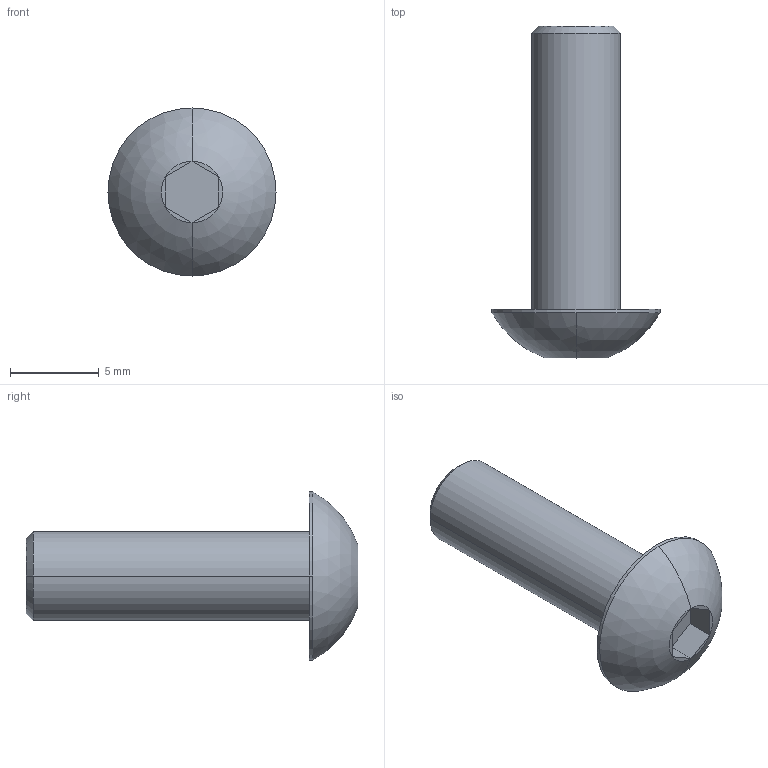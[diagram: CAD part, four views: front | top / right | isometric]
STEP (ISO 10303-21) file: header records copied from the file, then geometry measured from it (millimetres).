
FILE_DESCRIPTION((''),'2;1');
FILE_NAME('VTBEI0516','2002-12-27T',('Lipro doo'),('Lipro d.o.o.'),'PRO/ENGINEER BY PARAMETRIC TECHNOLOGY CORPORATION, 2001150','PRO/ENGINEER BY PARAMETRIC TECHNOLOGY CORPORATION, 2001150','');
FILE_SCHEMA(('CONFIG_CONTROL_DESIGN'));
Length unit declared in the file: millimetre
Products named in the file (1): VTBEI0516
Bounding box: 9.5 x 18.75 x 9.5 mm (x, y, z)
Volume: 426.1 mm3; surface area: 647.5 mm2
Topology: 1 solids, 2 shells, 25 faces, 50 edges, 28 vertices
Faces by surface type: plane 15, cylinder 6, cone 2, sphere 2
Entity records: 684 total; most frequent: DIRECTION 126, CARTESIAN_POINT 104, ORIENTED_EDGE 96, AXIS2_PLACEMENT_3D 50, EDGE_CURVE 50, VERTEX_POINT 28, VECTOR 26, LINE 26
